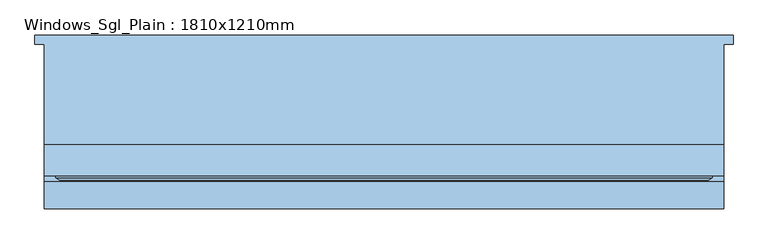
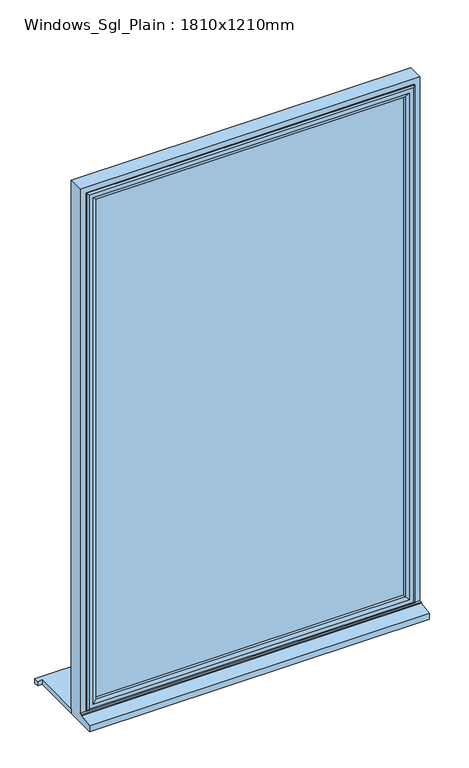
"""IFC4 building model written with IfcOpenShell, lengths in millimetres: window geometry, Windows_Sgl_Plain : 1810x1210mm."""

from ifc_helpers import new_model, si_unit, frame, origin, place, context, project, spatial, polyline, outline, extrude, faceted_brep, source, transform, mapped, element, save


def windows_sgl_plain_1810x1210mm_cb1ad5d4(model_context):
    return source(origin(), model_context, "Body", "SolidModel", [
        extrude(outline(polyline([(-930.0, 216.5434322), (930.0, 216.5434322), (930.0, 191.5434322), (905.0, 191.5434322), (905.0, -75.4565678), (-905.0, -75.4565678), (-905.0, 191.5434322), (-930.0, 191.5434322), (-930.0, 216.5434322)])), frame((0.0, 0.0, -890.0), z_axis=(0.0, 0.0, 1.0), x_axis=(1.0, 0.0, 0.0)), (0.0, 0.0, 1.0), 25.0),
        faceted_brep([(-905.0, -75.4565678, -890.0), (-905.0, -75.4565678, 2110.0), (905.0, -75.4565678, 2110.0), (905.0, -75.4565678, -890.0), (-845.0, -75.4565678, 2050.0), (-845.0, -75.4565678, -815.0), (845.0, -75.4565678, -815.0), (845.0, -75.4565678, 2050.0), (-905.0, -245.9565678, -890.0), (-905.0, -245.9565678, -856.1911153), (-905.0, -173.4565678, -845.2550324), (-905.0, -173.4565678, -840.31233), (-905.0, -158.4565678, -839.0), (-905.0, -158.4565678, 2110.0), (905.0, -158.4565678, -839.0), (905.0, -158.4565678, 2110.0), (-865.0, -158.4565678, 2070.0), (865.0, -158.4565678, 2070.0), (865.0, -158.4565678, -827.0), (-865.0, -158.4565678, -827.0), (-865.0, -93.4565678, -827.0), (-865.0, -93.4565678, 2070.0), (865.0, -93.4565678, -827.0), (865.0, -93.4565678, 2070.0), (-845.0, -93.4565678, 2050.0), (845.0, -93.4565678, 2050.0), (845.0, -93.4565678, -815.0), (-845.0, -93.4565678, -815.0), (905.0, -173.4565678, -840.31233), (905.0, -173.4565678, -845.2550324), (905.0, -245.9565678, -856.1911153), (905.0, -245.9565678, -890.0)], [[[0, 1, 2, 3], [4, 5, 6, 7]], [[0, 8, 9, 10, 11, 12, 13, 1]], [[12, 14, 15, 13], [16, 17, 18, 19]], [[19, 20, 21, 16]], [[21, 20, 22, 23], [24, 25, 26, 27]], [[24, 27, 5, 4]], [[1, 13, 15, 2]], [[16, 21, 23, 17]], [[7, 25, 24, 4]], [[14, 28, 29, 30, 31, 3, 2, 15]], [[17, 23, 22, 18]], [[7, 6, 26, 25]], [[31, 8, 0, 3]], [[30, 9, 8, 31]], [[29, 10, 9, 30]], [[28, 11, 10, 29]], [[14, 12, 11, 28]], [[20, 19, 18, 22]], [[5, 27, 26, 6]]]),
        extrude(outline(polyline([(835.0, -122.4565678), (835.0, -146.4565678), (-835.0, -146.4565678), (-835.0, -122.4565678), (835.0, -122.4565678)])), frame((0.0, 0.0, -797.0), z_axis=(0.0, 0.0, 1.0), x_axis=(1.0, 0.0, 0.0)), (0.0, 0.0, 1.0), 2837.0),
        faceted_brep([(-875.0, -158.4565678, 2080.0), (-875.0, -158.4565678, -837.0), (-875.0, -164.2300705, -837.0), (-875.0, -164.2300705, 2080.0), (-865.0, -93.4565678, 2070.0), (-865.0, -93.4565678, -827.0), (-865.0, -158.4565678, -827.0), (-865.0, -158.4565678, 2070.0), (-825.0, -107.9494677, 2030.0), (-825.0, -107.9494677, -787.0), (-835.1480377, -93.4565678, -797.1480377), (-835.1480377, -93.4565678, 2040.1480377), (-825.0, -122.4565678, 2030.0), (-825.0, -122.4565678, -787.0), (-835.0, -146.4565678, 2040.0), (-835.0, -146.4565678, -797.0), (-835.0, -122.4565678, -797.0), (-835.0, -122.4565678, 2040.0), (-825.0, -164.2300705, 2030.0), (-825.0, -164.2300705, -787.0), (-825.0, -146.4565678, -787.0), (-825.0, -146.4565678, 2030.0), (-842.4457548, -170.0035732, 2047.4457548), (-842.4457548, -170.0035732, -804.4457548), (-864.2153903, -170.0035732, -826.2153903), (-864.2153903, -170.0035732, 2069.2153903), (875.0, -158.4565678, -837.0), (875.0, -164.2300705, -837.0), (865.0, -93.4565678, -827.0), (865.0, -158.4565678, -827.0), (825.0, -107.9494677, -787.0), (835.1480377, -93.4565678, -797.1480377), (825.0, -122.4565678, -787.0), (835.0, -146.4565678, -797.0), (835.0, -122.4565678, -797.0), (825.0, -164.2300705, -787.0), (825.0, -146.4565678, -787.0), (842.4457548, -170.0035732, -804.4457548), (864.2153903, -170.0035732, -826.2153903), (875.0, -158.4565678, 2080.0), (875.0, -164.2300705, 2080.0), (865.0, -93.4565678, 2070.0), (865.0, -158.4565678, 2070.0), (825.0, -107.9494677, 2030.0), (835.1480377, -93.4565678, 2040.1480377), (825.0, -122.4565678, 2030.0), (835.0, -146.4565678, 2040.0), (835.0, -122.4565678, 2040.0), (825.0, -164.2300705, 2030.0), (825.0, -146.4565678, 2030.0), (842.4457548, -170.0035732, 2047.4457548), (864.2153903, -170.0035732, 2069.2153903)], [[[0, 1, 2, 3]], [[4, 5, 6, 7]], [[8, 9, 10, 11]], [[12, 13, 9, 8]], [[14, 15, 16, 17]], [[18, 19, 20, 21]], [[22, 23, 19, 18]], [[3, 2, 24, 25]], [[1, 26, 27, 2]], [[5, 28, 29, 6]], [[9, 30, 31, 10]], [[13, 32, 30, 9]], [[15, 33, 34, 16]], [[19, 35, 36, 20]], [[23, 37, 35, 19]], [[2, 27, 38, 24]], [[26, 39, 40, 27]], [[28, 41, 42, 29]], [[30, 43, 44, 31]], [[32, 45, 43, 30]], [[33, 46, 47, 34]], [[35, 48, 49, 36]], [[37, 50, 48, 35]], [[27, 40, 51, 38]], [[39, 0, 3, 40]], [[1, 0, 39, 26], [7, 6, 29, 42]], [[41, 4, 7, 42]], [[5, 4, 41, 28], [11, 10, 31, 44]], [[43, 8, 11, 44]], [[45, 12, 8, 43]], [[17, 16, 34, 47], [13, 12, 45, 32]], [[46, 14, 17, 47]], [[15, 14, 46, 33], [21, 20, 36, 49]], [[48, 18, 21, 49]], [[50, 22, 18, 48]], [[25, 24, 38, 51], [23, 22, 50, 37]], [[40, 3, 25, 51]]]),
    ])


if __name__ == "__main__":
    model = new_model("IFC4")
    model_context = context("Model", 3, world=origin())
    ifc_project = project(units=[si_unit("LENGTHUNIT", "METRE", prefix="MILLI")], contexts=[model_context])
    site = spatial("IfcSite", under=ifc_project)
    building = spatial("IfcBuilding", under=site)
    placement = place(None, origin())
    windows_sgl_plain_1810x1210mm_shape = windows_sgl_plain_1810x1210mm_cb1ad5d4(model_context)
    element("IfcWindow", 1, ObjectType="Windows_Sgl_Plain : 1810x1210mm", at=placement, inside=building, context=model_context, shape_type="MappedRepresentation", body=[
        mapped(windows_sgl_plain_1810x1210mm_shape, transform((0.0, 0.0, 0.0), x_axis=(1.0, 0.0, 0.0), y_axis=(0.0, 1.0, 0.0), z_axis=(0.0, 0.0, 1.0))),
    ])
    save(model, "model.ifc")
